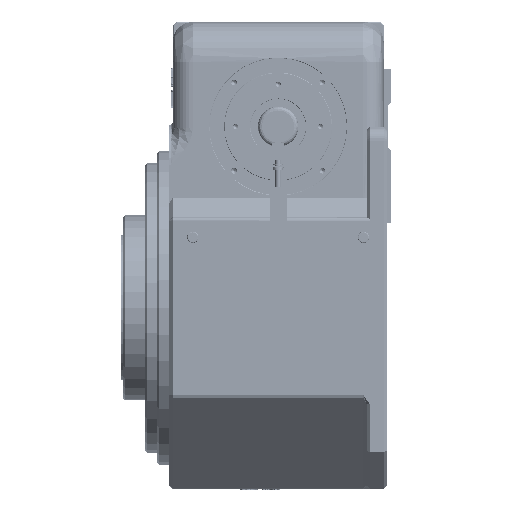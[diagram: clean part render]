
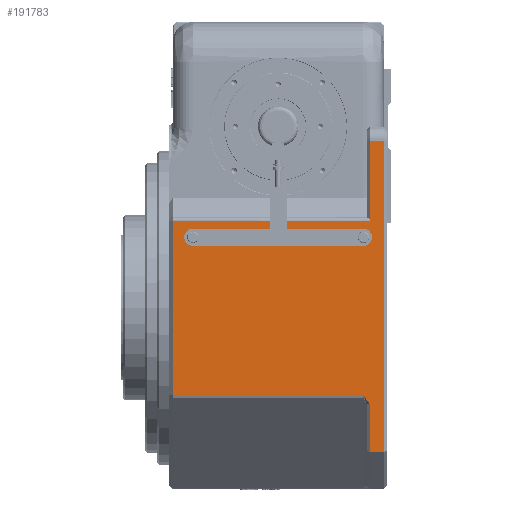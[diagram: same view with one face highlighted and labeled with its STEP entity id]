
A CAD part, left-side view. The second image highlights one B-rep face of the part: STEP entity #191783.
In plain terms, the highlighted planar face has unit normal (-1, 0, 0).
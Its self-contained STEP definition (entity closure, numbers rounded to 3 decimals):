
#63 = ORIENTED_EDGE ( 'NONE', *, *, #2924, .F. ) ;
#92 = EDGE_CURVE ( 'NONE', #158235, #64436, #183335, .T. ) ;
#1052 = DIRECTION ( 'NONE',  ( 0., 0., -1. ) ) ;
#2924 = EDGE_CURVE ( 'NONE', #133726, #202553, #9735, .T. ) ;
#5461 = DIRECTION ( 'NONE',  ( 0., 0., 1. ) ) ;
#8883 = EDGE_CURVE ( 'NONE', #20675, #194567, #106076, .T. ) ;
#9158 = VECTOR ( 'NONE', #118928, 1000. ) ;
#9730 = VERTEX_POINT ( 'NONE', #59454 ) ;
#9735 = CIRCLE ( 'NONE', #111716, 21.25 ) ;
#10409 = EDGE_CURVE ( 'NONE', #135692, #158235, #105695, .T. ) ;
#11048 = PLANE ( 'NONE',  #17842 ) ;
#11606 = ORIENTED_EDGE ( 'NONE', *, *, #70593, .F. ) ;
#17414 = VERTEX_POINT ( 'NONE', #174928 ) ;
#17781 = EDGE_CURVE ( 'NONE', #174583, #17414, #50675, .T. ) ;
#17842 = AXIS2_PLACEMENT_3D ( 'NONE', #102484, #120235, #26696 ) ;
#18095 = CARTESIAN_POINT ( 'NONE',  ( -940., -228., -235. ) ) ;
#19580 = CARTESIAN_POINT ( 'NONE',  ( -940., -228., -690.314 ) ) ;
#20445 = VECTOR ( 'NONE', #196945, 1000. ) ;
#20675 = VERTEX_POINT ( 'NONE', #83096 ) ;
#22461 = VERTEX_POINT ( 'NONE', #57156 ) ;
#23492 = EDGE_CURVE ( 'NONE', #22461, #86838, #193430, .T. ) ;
#25813 = ORIENTED_EDGE ( 'NONE', *, *, #23492, .F. ) ;
#26696 = DIRECTION ( 'NONE',  ( 0., 0., -1. ) ) ;
#29219 = ORIENTED_EDGE ( 'NONE', *, *, #96059, .F. ) ;
#29615 = EDGE_CURVE ( 'NONE', #64436, #182104, #169722, .T. ) ;
#32536 = VECTOR ( 'NONE', #43839, 1000. ) ;
#35171 = CARTESIAN_POINT ( 'NONE',  ( -940., 212., -296.25 ) ) ;
#36555 = ORIENTED_EDGE ( 'NONE', *, *, #39319, .F. ) ;
#36867 = CARTESIAN_POINT ( 'NONE',  ( -940., -21.25, 260. ) ) ;
#38783 = DIRECTION ( 'NONE',  ( 0., 1., 0. ) ) ;
#39319 = EDGE_CURVE ( 'NONE', #182104, #134982, #43692, .T. ) ;
#39978 = ORIENTED_EDGE ( 'NONE', *, *, #92, .F. ) ;
#43692 = LINE ( 'NONE', #97742, #195011 ) ;
#43839 = DIRECTION ( 'NONE',  ( 0., 0., 1. ) ) ;
#48006 = CARTESIAN_POINT ( 'NONE',  ( -940., 212., -275. ) ) ;
#50675 = LINE ( 'NONE', #149632, #9158 ) ;
#53338 = CARTESIAN_POINT ( 'NONE',  ( -940., -212., -296.25 ) ) ;
#56168 = CARTESIAN_POINT ( 'NONE',  ( -940., -228., -35. ) ) ;
#56470 = FACE_OUTER_BOUND ( 'NONE', #120990, .T. ) ;
#57156 = CARTESIAN_POINT ( 'NONE',  ( -940., -21.25, -253.75 ) ) ;
#58277 = AXIS2_PLACEMENT_3D ( 'NONE', #80286, #189447, #95976 ) ;
#59454 = CARTESIAN_POINT ( 'NONE',  ( -940., -262., -809. ) ) ;
#61963 = EDGE_CURVE ( 'NONE', #9730, #135692, #140120, .T. ) ;
#63749 = DIRECTION ( 'NONE',  ( 0., 0., 1. ) ) ;
#64436 = VERTEX_POINT ( 'NONE', #75802 ) ;
#64609 = VECTOR ( 'NONE', #130470, 1000. ) ;
#66966 = VECTOR ( 'NONE', #86560, 1000. ) ;
#68114 = DIRECTION ( 'NONE',  ( 0., -1., 0. ) ) ;
#68360 = CARTESIAN_POINT ( 'NONE',  ( -940., 270., -253.75 ) ) ;
#70206 = CARTESIAN_POINT ( 'NONE',  ( -940., 270., -809. ) ) ;
#70593 = EDGE_CURVE ( 'NONE', #86838, #104825, #181624, .T. ) ;
#72489 = CARTESIAN_POINT ( 'NONE',  ( -940., -228., 260. ) ) ;
#75802 = CARTESIAN_POINT ( 'NONE',  ( -940., -212., -667.686 ) ) ;
#78382 = VECTOR ( 'NONE', #125285, 1000. ) ;
#78857 = CARTESIAN_POINT ( 'NONE',  ( -940., -262., -450. ) ) ;
#80286 = CARTESIAN_POINT ( 'NONE',  ( -940., -212., -275. ) ) ;
#83096 = CARTESIAN_POINT ( 'NONE',  ( -940., 21.25, -235. ) ) ;
#86560 = DIRECTION ( 'NONE',  ( 0., 1., 0. ) ) ;
#86838 = VERTEX_POINT ( 'NONE', #92916 ) ;
#88759 = VECTOR ( 'NONE', #38783, 1000. ) ;
#89307 = VECTOR ( 'NONE', #1052, 1000. ) ;
#92916 = CARTESIAN_POINT ( 'NONE',  ( -940., -21.25, -235. ) ) ;
#95976 = DIRECTION ( 'NONE',  ( 0., 0., 1. ) ) ;
#96059 = EDGE_CURVE ( 'NONE', #202553, #187364, #198018, .T. ) ;
#96677 = ORIENTED_EDGE ( 'NONE', *, *, #17781, .F. ) ;
#97742 = CARTESIAN_POINT ( 'NONE',  ( -940., 262., 260. ) ) ;
#98592 = CARTESIAN_POINT ( 'NONE',  ( -940., 212., -253.75 ) ) ;
#100975 = EDGE_CURVE ( 'NONE', #134982, #20675, #189561, .T. ) ;
#101303 = ORIENTED_EDGE ( 'NONE', *, *, #29615, .F. ) ;
#102484 = CARTESIAN_POINT ( 'NONE',  ( -940., 270., 260. ) ) ;
#103463 = ORIENTED_EDGE ( 'NONE', *, *, #186932, .F. ) ;
#104825 = VERTEX_POINT ( 'NONE', #18095 ) ;
#105235 = VECTOR ( 'NONE', #128798, 1000. ) ;
#105695 = LINE ( 'NONE', #72489, #110631 ) ;
#106076 = LINE ( 'NONE', #114742, #64609 ) ;
#109558 = CARTESIAN_POINT ( 'NONE',  ( -940., 270., -296.25 ) ) ;
#110088 = ORIENTED_EDGE ( 'NONE', *, *, #100975, .F. ) ;
#110631 = VECTOR ( 'NONE', #197327, 1000. ) ;
#111716 = AXIS2_PLACEMENT_3D ( 'NONE', #48006, #157191, #63749 ) ;
#114742 = CARTESIAN_POINT ( 'NONE',  ( -940., 21.25, 260. ) ) ;
#118928 = DIRECTION ( 'NONE',  ( 0., -1., 0. ) ) ;
#119477 = DIRECTION ( 'NONE',  ( 0., 1., 0. ) ) ;
#120235 = DIRECTION ( 'NONE',  ( 1., 0., 0. ) ) ;
#120990 = EDGE_LOOP ( 'NONE', ( #132934, #110088, #36555, #101303, #39978, #123689, #167224, #184180, #96677, #178369, #11606, #25813, #186734, #171694, #29219, #63, #103463 ) ) ;
#123689 = ORIENTED_EDGE ( 'NONE', *, *, #10409, .F. ) ;
#125285 = DIRECTION ( 'NONE',  ( 0., -1., 0. ) ) ;
#126635 = EDGE_CURVE ( 'NONE', #171812, #22461, #164675, .T. ) ;
#128201 = VECTOR ( 'NONE', #119477, 1000. ) ;
#128798 = DIRECTION ( 'NONE',  ( 0., 0.577, 0.816 ) ) ;
#130463 = CARTESIAN_POINT ( 'NONE',  ( -940., -212., -253.75 ) ) ;
#130470 = DIRECTION ( 'NONE',  ( 0., 0., -1. ) ) ;
#132934 = ORIENTED_EDGE ( 'NONE', *, *, #8883, .F. ) ;
#133726 = VERTEX_POINT ( 'NONE', #98592 ) ;
#134982 = VERTEX_POINT ( 'NONE', #151797 ) ;
#135692 = VERTEX_POINT ( 'NONE', #155595 ) ;
#136666 = CARTESIAN_POINT ( 'NONE',  ( -940., -228., 260. ) ) ;
#137332 = CARTESIAN_POINT ( 'NONE',  ( -940., 21.25, -253.75 ) ) ;
#140120 = LINE ( 'NONE', #70206, #88759 ) ;
#146326 = EDGE_CURVE ( 'NONE', #17414, #9730, #191858, .T. ) ;
#149632 = CARTESIAN_POINT ( 'NONE',  ( -940., 270., -35. ) ) ;
#149790 = LINE ( 'NONE', #68360, #186386 ) ;
#150268 = EDGE_CURVE ( 'NONE', #104825, #174583, #161959, .T. ) ;
#151797 = CARTESIAN_POINT ( 'NONE',  ( -940., 262., -235. ) ) ;
#151953 = VECTOR ( 'NONE', #5461, 1000. ) ;
#155595 = CARTESIAN_POINT ( 'NONE',  ( -940., -228., -809. ) ) ;
#157191 = DIRECTION ( 'NONE',  ( -1., 0., 0. ) ) ;
#158235 = VERTEX_POINT ( 'NONE', #168289 ) ;
#161809 = DIRECTION ( 'NONE',  ( 0., 1., 0. ) ) ;
#161959 = LINE ( 'NONE', #136666, #32536 ) ;
#164377 = CARTESIAN_POINT ( 'NONE',  ( -940., 270., -253.75 ) ) ;
#164675 = LINE ( 'NONE', #164377, #66966 ) ;
#165558 = CARTESIAN_POINT ( 'NONE',  ( -940., 270., -235. ) ) ;
#167224 = ORIENTED_EDGE ( 'NONE', *, *, #61963, .F. ) ;
#168289 = CARTESIAN_POINT ( 'NONE',  ( -940., -228., -690.314 ) ) ;
#169019 = CIRCLE ( 'NONE', #58277, 21.25 ) ;
#169722 = LINE ( 'NONE', #181530, #128201 ) ;
#171694 = ORIENTED_EDGE ( 'NONE', *, *, #190241, .F. ) ;
#171812 = VERTEX_POINT ( 'NONE', #130463 ) ;
#174583 = VERTEX_POINT ( 'NONE', #56168 ) ;
#174928 = CARTESIAN_POINT ( 'NONE',  ( -940., -262., -35. ) ) ;
#178369 = ORIENTED_EDGE ( 'NONE', *, *, #150268, .F. ) ;
#181530 = CARTESIAN_POINT ( 'NONE',  ( -940., 270., -667.686 ) ) ;
#181624 = LINE ( 'NONE', #165558, #20445 ) ;
#182104 = VERTEX_POINT ( 'NONE', #184544 ) ;
#183335 = LINE ( 'NONE', #19580, #105235 ) ;
#184180 = ORIENTED_EDGE ( 'NONE', *, *, #146326, .F. ) ;
#184544 = CARTESIAN_POINT ( 'NONE',  ( -940., 262., -667.686 ) ) ;
#184670 = VECTOR ( 'NONE', #68114, 1000. ) ;
#186386 = VECTOR ( 'NONE', #161809, 1000. ) ;
#186734 = ORIENTED_EDGE ( 'NONE', *, *, #126635, .F. ) ;
#186932 = EDGE_CURVE ( 'NONE', #194567, #133726, #149790, .T. ) ;
#187364 = VERTEX_POINT ( 'NONE', #53338 ) ;
#189447 = DIRECTION ( 'NONE',  ( -1., 0., 0. ) ) ;
#189561 = LINE ( 'NONE', #194988, #184670 ) ;
#190241 = EDGE_CURVE ( 'NONE', #187364, #171812, #169019, .T. ) ;
#191247 = DIRECTION ( 'NONE',  ( 0., 0., 1. ) ) ;
#191783 = ADVANCED_FACE ( 'NONE', ( #56470 ), #11048, .F. ) ;
#191858 = LINE ( 'NONE', #78857, #89307 ) ;
#193430 = LINE ( 'NONE', #36867, #151953 ) ;
#194567 = VERTEX_POINT ( 'NONE', #137332 ) ;
#194988 = CARTESIAN_POINT ( 'NONE',  ( -940., 270., -235. ) ) ;
#195011 = VECTOR ( 'NONE', #191247, 1000. ) ;
#196945 = DIRECTION ( 'NONE',  ( 0., -1., 0. ) ) ;
#197327 = DIRECTION ( 'NONE',  ( 0., 0., 1. ) ) ;
#198018 = LINE ( 'NONE', #109558, #78382 ) ;
#202553 = VERTEX_POINT ( 'NONE', #35171 ) ;
